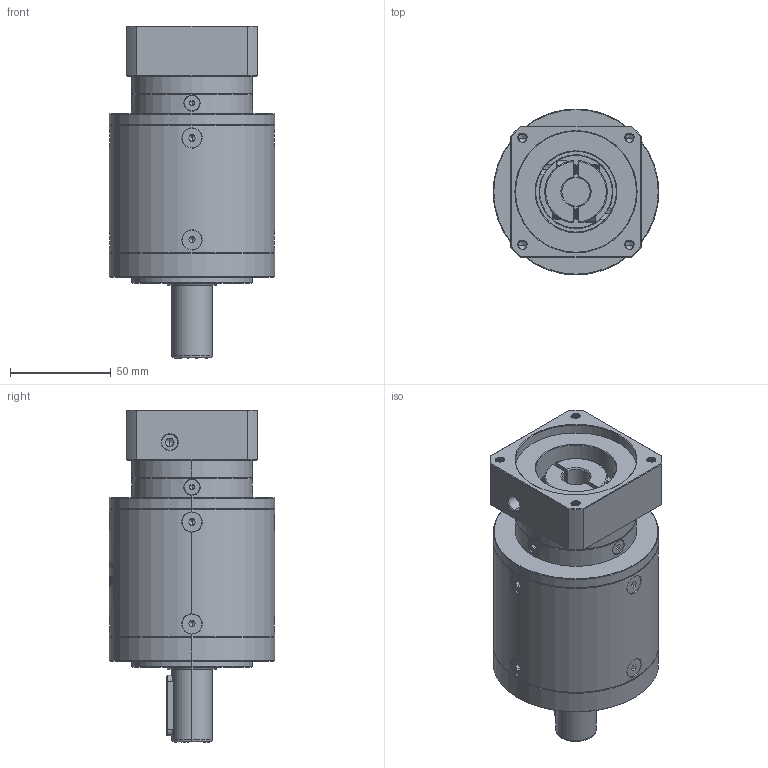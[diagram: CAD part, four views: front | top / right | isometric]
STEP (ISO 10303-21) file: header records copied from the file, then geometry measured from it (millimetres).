
FILE_DESCRIPTION (( 'STEP AP214' ), '1' );
FILE_NAME ('ZE80-D20-L3-14-60-75-M5.step', '2022-05-08T06:01:46', ( '' ), ( 'Microsoft' ), 'SwSTEP 2.0', 'SolidWorks 2016', '' );
FILE_SCHEMA (( 'AUTOMOTIVE_DESIGN' ));
Length unit declared in the file: millimetre
Products named in the file (1): ZE80-D20-L3-14-60-75-M5
Bounding box: 82 x 82 x 164.5 mm (x, y, z)
Volume: 558973.2 mm3; surface area: 71927.1 mm2
Topology: 18 solids, 18 shells, 2132 faces, 5609 edges, 3569 vertices
Faces by surface type: plane 948, cylinder 517, bspline 340, cone 313, torus 14
Entity records: 121718 total; most frequent: CARTESIAN_POINT 49866, ORIENTED_EDGE 11126, DIRECTION 8657, EDGE_CURVE 5563, VERTEX_POINT 3569, LINE 2969, VECTOR 2969, AXIS2_PLACEMENT_3D 2844
